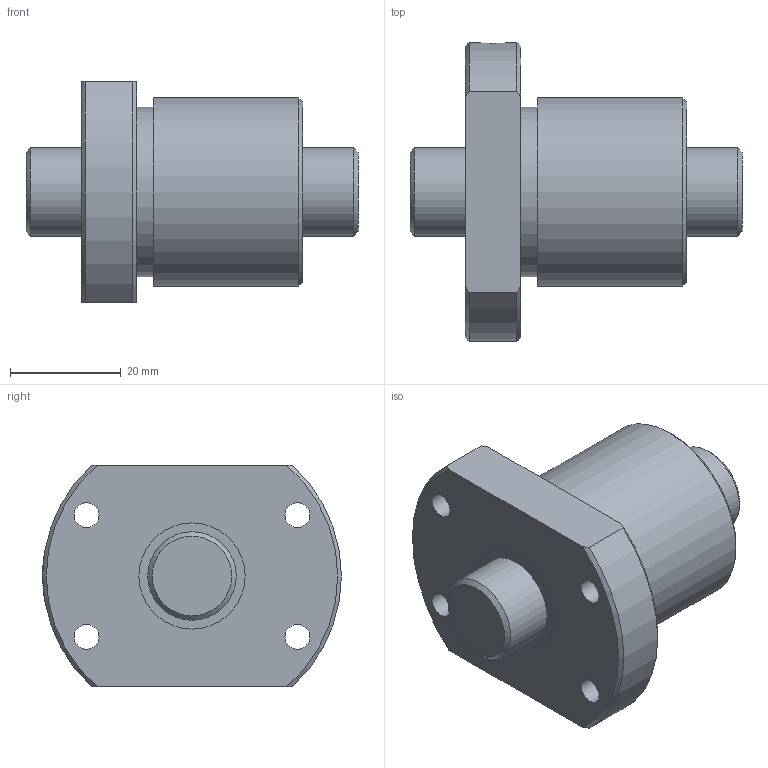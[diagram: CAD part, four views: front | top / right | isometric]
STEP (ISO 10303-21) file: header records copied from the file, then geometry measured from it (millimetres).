
FILE_DESCRIPTION(/* description */ ('STEP AP203'),/* implementation_level */ '2;1');
FILE_NAME(/* name */ 'BTK1605V-2.6ZZ+60LC7T_000',/* time_stamp */ '2025-01-15T02:57:01+01:00',/* author */ ('License CC BY-ND 4.0'),/* organization */ ('CADENAS'),/* preprocessor_version */ 'ST-DEVELOPER v19.3',/* originating_system */ 'PARTsolutions',/* authorisation */ ' ');
FILE_SCHEMA (('CONFIG_CONTROL_DESIGN'));
Length unit declared in the file: millimetre
Products named in the file (3): BTK1605V-2.6ZZ+60LC7T_000; BTK 1605V-2.600 Shaft; BTK 1605V-2.6ZZ Nut
Assembly tree (2 placements, depth 2):
  BTK1605V-2.6ZZ+60LC7T_000
    BTK 1605V-2.600 Shaft
    BTK 1605V-2.6ZZ Nut
Bounding box: 60 x 54 x 40 mm (x, y, z)
Volume: 49053.4 mm3; surface area: 14580.6 mm2
Topology: 2 solids, 2 shells, 31 faces, 66 edges, 43 vertices
Faces by surface type: cylinder 13, plane 10, cone 8
Full cylindrical faces by diameter (mm): 4.5 x4, 4.917 x1, 16 x2, 19.2 x2, 30.6 x1, 34 x1
Entity records: 887 total; most frequent: CARTESIAN_POINT 170, DIRECTION 140, ORIENTED_EDGE 100, AXIS2_PLACEMENT_3D 66, EDGE_LOOP 62, FACE_BOUND 62, EDGE_CURVE 50, VERTEX_POINT 42
